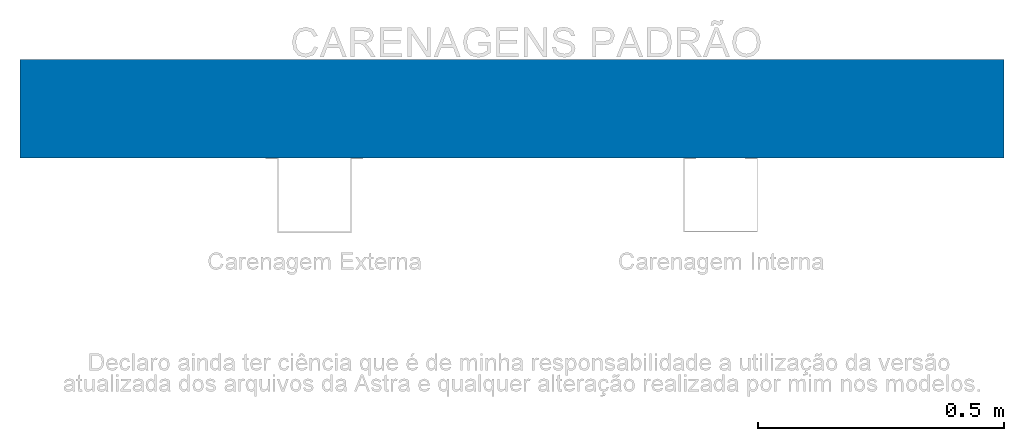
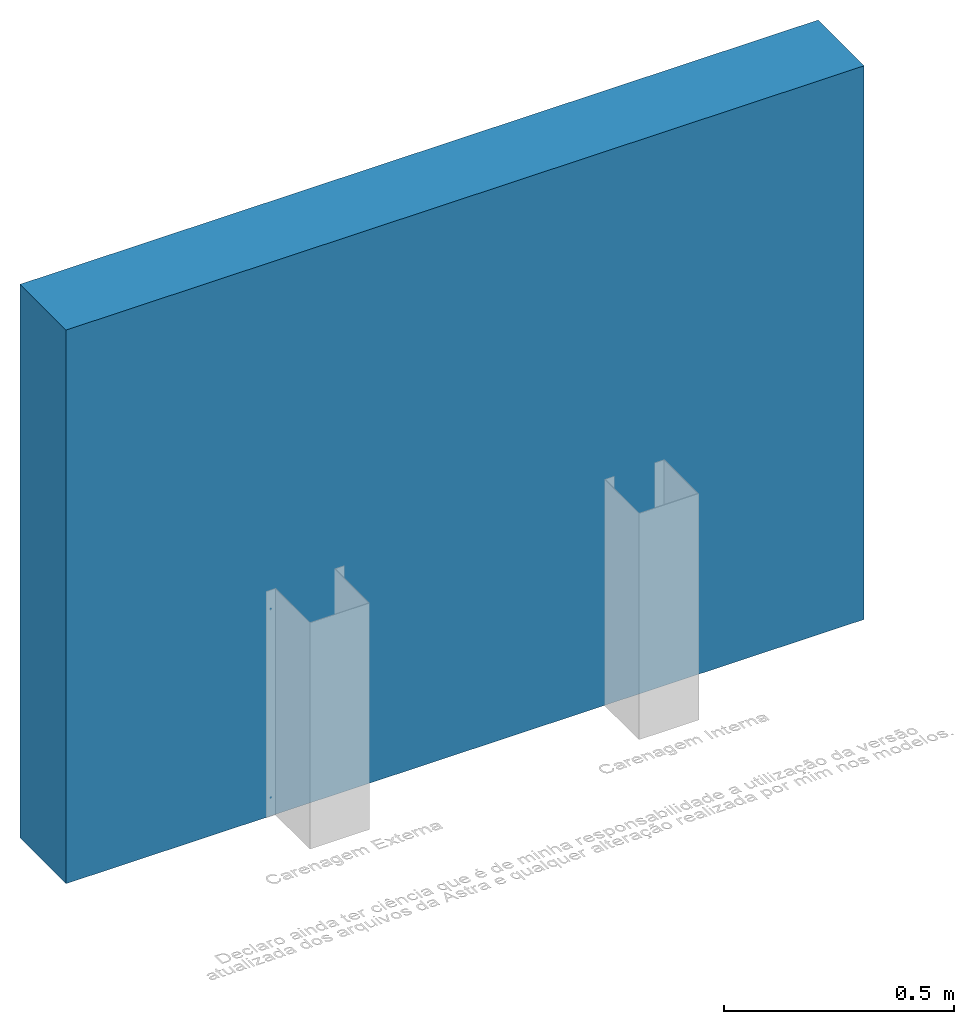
# One storey, part 1 of 5: 1 wall.
"""IFC2X3 building model written with IfcOpenShell, lengths in millimetres."""

from ifc_helpers import new_model, entity, si_unit, converted_unit, derived_unit, direction, frame, frame_2d, origin, place, context, subcontext, project, spatial, rectangle, extrude, material, layer, layer_set, layer_usage, type_object, element, save


model = new_model("IFC2X3")

# Units and contexts
model_context = context("Model", 3, precision=0.01, world=origin(), true_north=direction((6.12303176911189e-17, 1.0)))
body_context = subcontext(model_context, "Body", "Model", "MODEL_VIEW")
ifc_project = project(units=[si_unit("LENGTHUNIT", "METRE", prefix="MILLI"), si_unit("AREAUNIT", "SQUARE_METRE"), si_unit("VOLUMEUNIT", "CUBIC_METRE"), converted_unit("PLANEANGLEUNIT", "DEGREE", entity("IfcRatioMeasure", 0.0174532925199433), si_unit("PLANEANGLEUNIT", "RADIAN"), dimensions=[0, 0, 0, 0, 0, 0, 0]), si_unit("MASSUNIT", "GRAM", prefix="KILO"), derived_unit("MASSDENSITYUNIT", [(si_unit("MASSUNIT", "GRAM", prefix="KILO"), 1), (si_unit("LENGTHUNIT", "METRE"), -3)]), derived_unit("MOMENTOFINERTIAUNIT", [(si_unit("LENGTHUNIT", "METRE"), 4)]), si_unit("TIMEUNIT", "SECOND"), si_unit("FREQUENCYUNIT", "HERTZ"), si_unit("THERMODYNAMICTEMPERATUREUNIT", "DEGREE_CELSIUS"), derived_unit("THERMALTRANSMITTANCEUNIT", [(si_unit("MASSUNIT", "GRAM", prefix="KILO"), 1), (si_unit("THERMODYNAMICTEMPERATUREUNIT", "KELVIN"), -1), (si_unit("TIMEUNIT", "SECOND"), -3)]), derived_unit("VOLUMETRICFLOWRATEUNIT", [(si_unit("LENGTHUNIT", "METRE"), 3), (si_unit("TIMEUNIT", "SECOND"), -1)]), si_unit("ELECTRICCURRENTUNIT", "AMPERE"), si_unit("ELECTRICVOLTAGEUNIT", "VOLT"), si_unit("POWERUNIT", "WATT"), si_unit("FORCEUNIT", "NEWTON", prefix="KILO"), si_unit("ILLUMINANCEUNIT", "LUX"), si_unit("LUMINOUSFLUXUNIT", "LUMEN"), si_unit("LUMINOUSINTENSITYUNIT", "CANDELA"), derived_unit("USERDEFINED", [(si_unit("MASSUNIT", "GRAM", prefix="KILO"), -1), (si_unit("LENGTHUNIT", "METRE"), -2), (si_unit("TIMEUNIT", "SECOND"), 3), (si_unit("LUMINOUSFLUXUNIT", "LUMEN"), 1)]), derived_unit("LINEARVELOCITYUNIT", [(si_unit("LENGTHUNIT", "METRE"), 1), (si_unit("TIMEUNIT", "SECOND"), -1)]), si_unit("PRESSUREUNIT", "PASCAL"), derived_unit("USERDEFINED", [(si_unit("LENGTHUNIT", "METRE"), -2), (si_unit("MASSUNIT", "GRAM", prefix="KILO"), 1), (si_unit("TIMEUNIT", "SECOND"), -2)]), derived_unit("LINEARFORCEUNIT", [(si_unit("MASSUNIT", "GRAM", prefix="KILO"), 1), (si_unit("LENGTHUNIT", "METRE"), 1), (si_unit("TIMEUNIT", "SECOND"), -2), (si_unit("LENGTHUNIT", "METRE"), -1)]), derived_unit("PLANARFORCEUNIT", [(si_unit("MASSUNIT", "GRAM", prefix="KILO"), 1), (si_unit("LENGTHUNIT", "METRE"), 1), (si_unit("TIMEUNIT", "SECOND"), -2), (si_unit("LENGTHUNIT", "METRE"), -2)])], contexts=[model_context])

# Site, building, storey
site_placement = place(None, origin())
site = spatial("IfcSite", under=ifc_project, at=site_placement, Name="Default", CompositionType="ELEMENT")
building_placement = place(site_placement, origin())
building = spatial("IfcBuilding", under=site, at=building_placement, CompositionType="ELEMENT")
storey_placement = place(building_placement, origin())
storey = spatial("IfcBuildingStorey", under=building, at=storey_placement, Name="Vista Principal", CompositionType="ELEMENT", Elevation=0.0)

# Wall
ifc_material = material(Name="Material pré-definido de parede")
ifc_layer = layer(ifc_material, 200.0)
ifc_layer_set = layer_set([ifc_layer], Name="Parede básica:Genérico - 200 mm")
ifc_layer_usage = layer_usage(ifc_layer_set, "AXIS2", "NEGATIVE", 100.0)
wall_type = type_object("IfcWallType", Name="Parede básica:Genérico - 200 mm", PredefinedType="STANDARD", material=ifc_layer_set)
wall_placement = place(storey_placement, frame((-11220.2840870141, 5665.50227872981, 0.0)))
element("IfcWallStandardCase", 1, at=wall_placement, inside=storey, type_object=wall_type, material=ifc_layer_usage, Name="Parede básica:Genérico - 200 mm", ObjectType="Parede básica:Genérico - 200 mm", context=body_context, shape_type="SweptSolid", body=[
    extrude(rectangle(XDim=2000.0, YDim=200.0, at=frame_2d((1000.0, 2.8421709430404e-14), x_axis=(-1.0, 0.0))), origin(), (0.0, 0.0, 1.0), 1466.85024348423),
])

save(model, "model.ifc")
